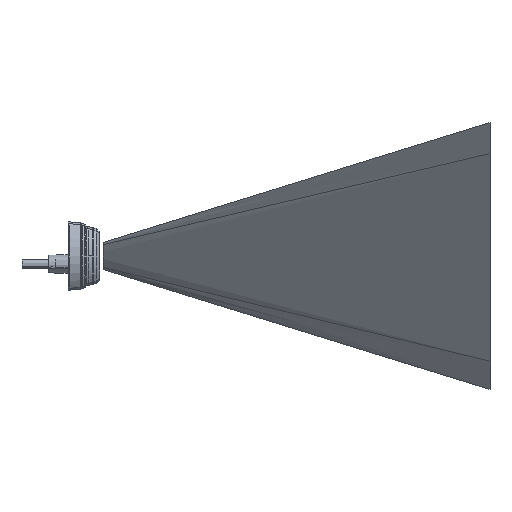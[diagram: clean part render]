
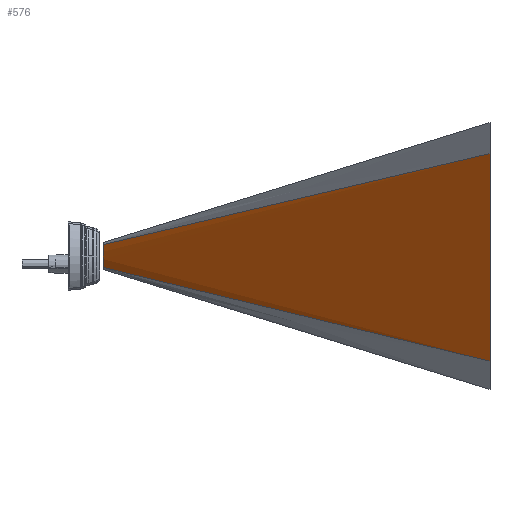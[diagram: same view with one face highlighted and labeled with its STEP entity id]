
A CAD part, front view. The second image highlights one B-rep face of the part: STEP entity #576.
In plain terms, the highlighted free-form (B-spline) face has degree [5, 1] with [9, 2] control points.
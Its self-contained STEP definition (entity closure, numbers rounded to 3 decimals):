
#495=CARTESIAN_POINT('Vertex',(209.4,-236.344,-52.179)) ;
#499=CARTESIAN_POINT('Control Point',(17.4,-32.63,-5.713)) ;
#500=CARTESIAN_POINT('Control Point',(209.4,-236.344,-52.179)) ;
#501=CARTESIAN_POINT('Vertex',(17.4,-32.63,-5.713)) ;
#519=CARTESIAN_POINT('Control Point',(12.9,-27.855,4.624)) ;
#520=CARTESIAN_POINT('Control Point',(2136.921,-2281.486,504.06)) ;
#521=CARTESIAN_POINT('Control Point',(12.9,-28.14,3.739)) ;
#522=CARTESIAN_POINT('Control Point',(2148.139,-2293.516,402.261)) ;
#523=CARTESIAN_POINT('Control Point',(12.9,-28.357,2.833)) ;
#524=CARTESIAN_POINT('Control Point',(2156.525,-2302.509,299.792)) ;
#525=CARTESIAN_POINT('Control Point',(12.9,-28.505,1.906)) ;
#526=CARTESIAN_POINT('Control Point',(2162.069,-2308.455,196.74)) ;
#527=CARTESIAN_POINT('Control Point',(12.9,-28.654,0.038)) ;
#528=CARTESIAN_POINT('Control Point',(2167.342,-2314.11,-8.745)) ;
#529=CARTESIAN_POINT('Control Point',(12.9,-28.513,-1.838)) ;
#530=CARTESIAN_POINT('Control Point',(2161.275,-2307.603,-213.357)) ;
#531=CARTESIAN_POINT('Control Point',(12.9,-28.37,-2.774)) ;
#532=CARTESIAN_POINT('Control Point',(2155.477,-2301.386,-315.553)) ;
#533=CARTESIAN_POINT('Control Point',(12.9,-28.151,-3.706)) ;
#534=CARTESIAN_POINT('Control Point',(2146.732,-2292.008,-417.728)) ;
#535=CARTESIAN_POINT('Control Point',(12.9,-27.855,-4.624)) ;
#536=CARTESIAN_POINT('Control Point',(2135.331,-2279.782,-518.276)) ;
#538=CARTESIAN_POINT('Control Point',(209.4,-236.344,-52.179)) ;
#539=CARTESIAN_POINT('Control Point',(209.4,-236.49,-46.77)) ;
#540=CARTESIAN_POINT('Control Point',(209.4,-236.616,-41.367)) ;
#541=CARTESIAN_POINT('Control Point',(209.4,-236.723,-35.984)) ;
#542=CARTESIAN_POINT('Control Point',(209.4,-236.899,-25.241)) ;
#543=CARTESIAN_POINT('Control Point',(209.4,-236.997,-14.59)) ;
#544=CARTESIAN_POINT('Control Point',(209.4,-237.028,-9.274)) ;
#545=CARTESIAN_POINT('Control Point',(209.4,-237.061,5.864)) ;
#546=CARTESIAN_POINT('Control Point',(209.4,-236.944,21.036)) ;
#547=CARTESIAN_POINT('Control Point',(209.4,-236.804,30.905)) ;
#548=CARTESIAN_POINT('Control Point',(209.4,-236.604,40.82)) ;
#549=CARTESIAN_POINT('Control Point',(209.4,-236.346,50.828)) ;
#550=CARTESIAN_POINT('Vertex',(209.4,-236.346,50.828)) ;
#554=CARTESIAN_POINT('Control Point',(17.4,-32.63,5.682)) ;
#555=CARTESIAN_POINT('Control Point',(209.4,-236.346,50.828)) ;
#556=CARTESIAN_POINT('Vertex',(17.4,-32.63,5.682)) ;
#560=CARTESIAN_POINT('Control Point',(17.4,-32.63,-5.713)) ;
#561=CARTESIAN_POINT('Control Point',(17.4,-32.927,-4.571)) ;
#562=CARTESIAN_POINT('Control Point',(17.4,-33.146,-3.417)) ;
#563=CARTESIAN_POINT('Control Point',(17.4,-33.289,-2.26)) ;
#564=CARTESIAN_POINT('Control Point',(17.4,-33.428,0.04)) ;
#565=CARTESIAN_POINT('Control Point',(17.4,-33.276,2.333)) ;
#566=CARTESIAN_POINT('Control Point',(17.4,-33.128,3.468)) ;
#567=CARTESIAN_POINT('Control Point',(17.4,-32.913,4.584)) ;
#568=CARTESIAN_POINT('Control Point',(17.4,-32.63,5.682)) ;
#571=ORIENTED_EDGE('',*,*,#503,.T.) ;
#572=ORIENTED_EDGE('',*,*,#552,.T.) ;
#573=ORIENTED_EDGE('',*,*,#558,.F.) ;
#574=ORIENTED_EDGE('',*,*,#569,.F.) ;
#576=ADVANCED_FACE('Geometric Visibillity Cone / LH+RH / SIDE / MARKER LAMP',(#575),#518,.T.) ;
#498=B_SPLINE_CURVE_WITH_KNOTS('',1,(#499,#500),.UNSPECIFIED.,.F.,.U.,(2,2),(6.651,290.439),.UNSPECIFIED.) ;
#537=B_SPLINE_CURVE_WITH_KNOTS('',5,(#538,#539,#540,#541,#542,#543,#544,#545,#546,#547,#548,#549),.UNSPECIFIED.,.F.,.U.,(6,3,3,6),(0.,189.462,379.947,732.316),.UNSPECIFIED.) ;
#553=B_SPLINE_CURVE_WITH_KNOTS('',1,(#554,#555),.UNSPECIFIED.,.F.,.U.,(2,2),(6.646,290.222),.UNSPECIFIED.) ;
#559=B_SPLINE_CURVE_WITH_KNOTS('',5,(#560,#561,#562,#563,#564,#565,#566,#567,#568),.UNSPECIFIED.,.F.,.U.,(6,3,6),(0.,362.541,725.071),.UNSPECIFIED.) ;
#518=B_SPLINE_SURFACE_WITH_KNOTS('',5,1,((#519,#520),(#521,#522),(#523,#524),(#525,#526),(#527,#528),(#529,#530),(#531,#532),(#533,#534),(#535,#536)),.UNSPECIFIED.,.F.,.F.,.U.,(6,3,6),(2,2),(0.,364.595,724.98),(0.,3137.083),.UNSPECIFIED.) ;
#503=EDGE_CURVE('',#502,#496,#498,.T.) ;
#552=EDGE_CURVE('',#496,#551,#537,.T.) ;
#558=EDGE_CURVE('',#557,#551,#553,.T.) ;
#569=EDGE_CURVE('',#502,#557,#559,.T.) ;
#570=EDGE_LOOP('',(#571,#572,#573,#574)) ;
#575=FACE_OUTER_BOUND('',#570,.T.) ;
#496=VERTEX_POINT('',#495) ;
#502=VERTEX_POINT('',#501) ;
#551=VERTEX_POINT('',#550) ;
#557=VERTEX_POINT('',#556) ;
